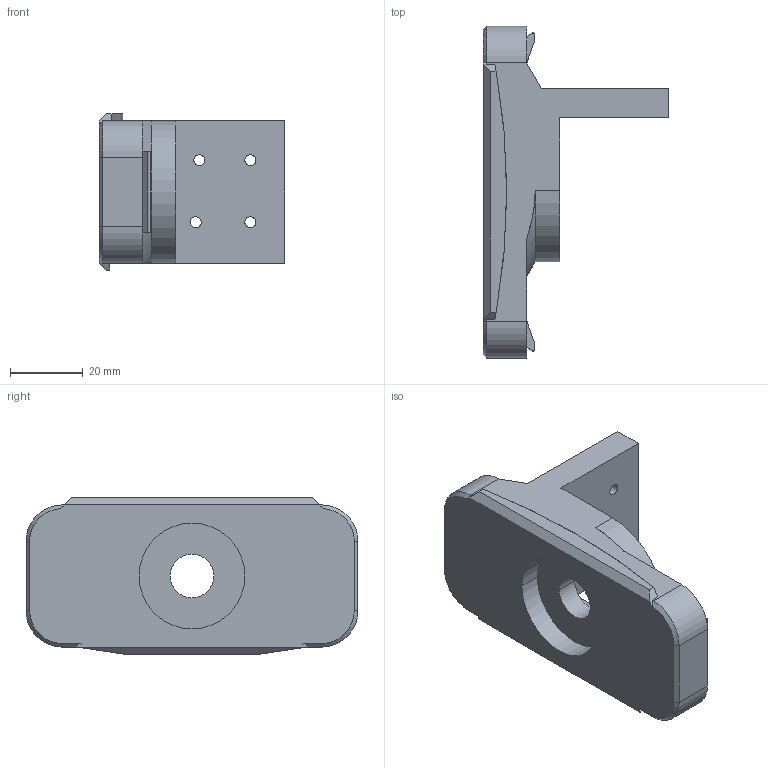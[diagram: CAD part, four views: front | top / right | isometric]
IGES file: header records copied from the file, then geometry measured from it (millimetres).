
Start section: START RECORD GO HERE.
Global section: file name: BASE_MAIN_PANEL CONTROL.igs; native system: DASSAULT SYSTEMES CATIA V5 R21 - www.3ds.com; preprocessor: CATIA Version 5 Release 21 ; author: luisg; organization: DESKTOP-0B5R3KV; date: 20241124.231308; units: millimetre
Bounding box: 51 x 91 x 43 mm (x, y, z)
Surface area: 16310.8 mm2 (no closed solid volume)
Topology: 0 solids, 0 shells, 77 faces, 394 edges, 394 vertices
Faces by surface type: plane 42, revolution 33, extrusion 2
